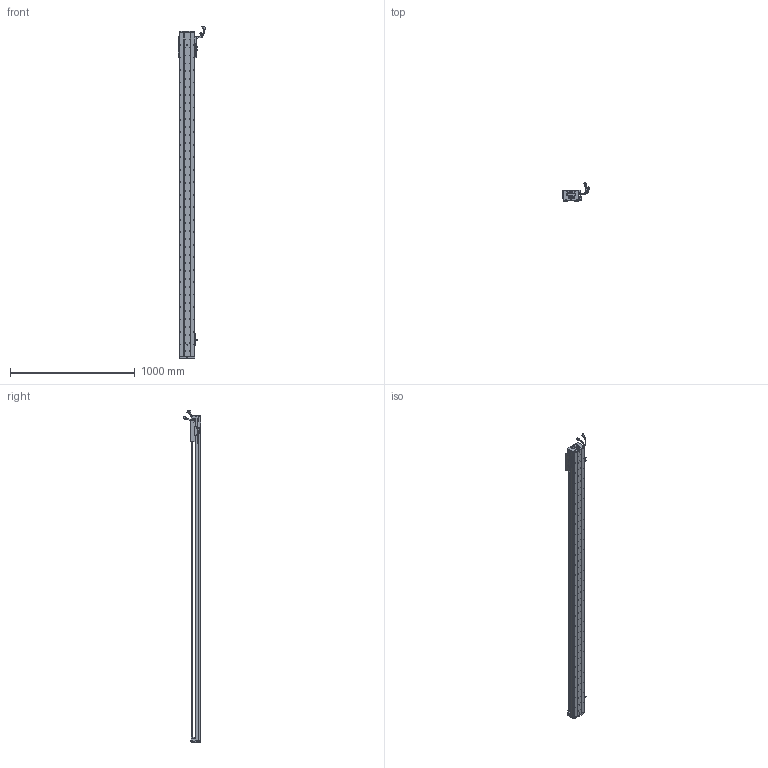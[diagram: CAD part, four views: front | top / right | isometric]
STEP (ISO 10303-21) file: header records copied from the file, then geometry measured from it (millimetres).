
FILE_DESCRIPTION (( 'STEP AP203' ), '1' );
FILE_NAME ('Z2-RY120D-1-L500-B-K.SLDASM_2350.step', '2021-05-17T05:38:41', ( '盈信电脑' ), ( '东莞市道滘镇水果街19号' ), 'SwSTEP 2.0', 'SolidWorks 2016', '' );
FILE_SCHEMA (( 'CONFIG_CONTROL_DESIGN' ));
Length unit declared in the file: millimetre
Products named in the file (37): HARNESS-Part-2; HARNESS-Part-1; Z2-RY120D-1-L500-B-K.SLDASM_2350; SEAL; SHIELDPLATE; SCREW-M1.7-1; 672嫖萇羲壽假蚾釱; Z-120詩湍傷裔啣; PSLH080_PSLF2; PBU_SHEET; LABEL; 120-Z-臏賑輸盄裔(21遴); SCALE-Part-1; HARNESS; 140蚥薯蝶輸; Z-RY120D詩湍奻揤裔; RY100FB-遵嫖萇覜茼え; COVER-Part-1; LABEL-Part-1; HOLDER0; SCALE; COVER; 140雄赽晤鎢ん堤盄; SCREW-M1.6; 080黍杅芛假蚾釱21遴; SCALE-Part-2; Z2-RY120-500-倰第菁釱_2350; SCREW-M1.7; SCREW-M1.6-2; 榋妏寠巭燃_暯_M2_2; Z2-RY120-L500詩湍100mm遵_2350; Z2-RY120铝滑块（21款）; SEAL-Part-1; Z-RY120D詩湍狟揤裔; 覜茼ん672; SCREW-M1.6-1; SCREW-M1.6-3
Assembly tree (43 placements, depth 4):
  Z2-RY120D-1-L500-B-K.SLDASM_2350
    Z2-RY120-500-倰第菁釱_2350
    覜茼ん672  x3
    672嫖萇羲壽假蚾釱  x2
    Z2-RY120铝滑块（21款）
    PSLH080_PSLF2
      SCALE
        SCALE-Part-1
        SCALE-Part-2
      HARNESS
        HARNESS-Part-1
        HARNESS-Part-2
      LABEL
        LABEL-Part-1
      COVER
        COVER-Part-1
      SEAL
        SEAL-Part-1
      榋妏寠巭燃_暯_M2_2
      SHIELDPLATE
      SCREW-M1.7
      SCREW-M1.7-1
      PBU_SHEET
      SCREW-M1.6
      SCREW-M1.6-1
      SCREW-M1.6-2
      SCREW-M1.6-3
      HOLDER0
    080黍杅芛假蚾釱21遴
    120-Z-臏賑輸盄裔(21遴)
    140雄赽晤鎢ん堤盄
    140蚥薯蝶輸  x2
    RY100FB-遵嫖萇覜茼え
    Z-120詩湍傷裔啣  x2
    Z-RY120D詩湍奻揤裔  x2
    Z-RY120D詩湍狟揤裔  x2
    Z2-RY120-L500詩湍100mm遵_2350
Bounding box: 222.83 x 140.94 x 2658.99 mm (x, y, z)
Volume: 6090014.3 mm3; surface area: 2155445.7 mm2
Topology: 38 solids, 38 shells, 3647 faces, 10392 edges, 6558 vertices
Faces by surface type: cylinder 1904, plane 1243, cone 378, torus 69, bspline 53
Entity records: 122281 total; most frequent: CARTESIAN_POINT 37410, ORIENTED_EDGE 17552, DIRECTION 16082, EDGE_CURVE 8776, AXIS2_PLACEMENT_3D 5942, VERTEX_POINT 5678, VECTOR 4198, LINE 4198
